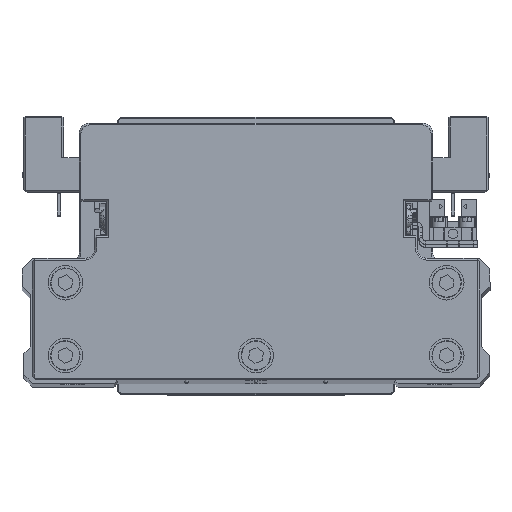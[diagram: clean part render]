
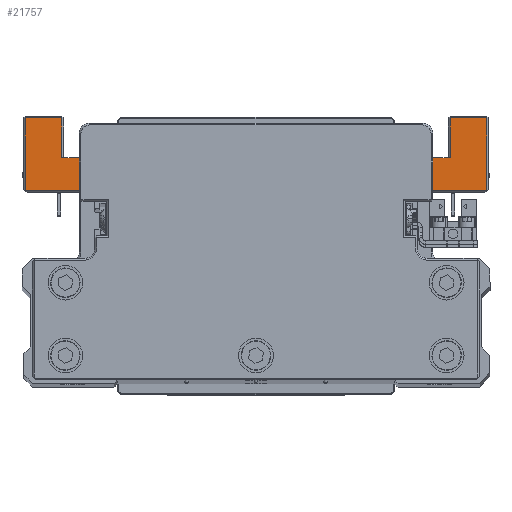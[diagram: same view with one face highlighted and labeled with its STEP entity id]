
A CAD part, top view. The second image highlights one B-rep face of the part: STEP entity #21757.
In plain terms, the highlighted planar face has unit normal (0, 0, 1) as drawn and (0, -1, 0) by its records, which use the part's own axes.
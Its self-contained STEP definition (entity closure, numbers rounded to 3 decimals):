
#38 = VECTOR ( 'NONE', #39865, 1000. ) ;
#232 = CARTESIAN_POINT ( 'NONE',  ( 40.066, -45., -41.5 ) ) ;
#946 = DIRECTION ( 'NONE',  ( -1., 0., 0. ) ) ;
#1386 = VERTEX_POINT ( 'NONE', #9622 ) ;
#1780 = EDGE_CURVE ( 'NONE', #37470, #39739, #15236, .T. ) ;
#1956 = EDGE_CURVE ( 'NONE', #39739, #14226, #10176, .T. ) ;
#2041 = LINE ( 'NONE', #14368, #35188 ) ;
#2049 = LINE ( 'NONE', #14380, #17871 ) ;
#2439 = CARTESIAN_POINT ( 'NONE',  ( 40.066, -45., -43. ) ) ;
#2523 = DIRECTION ( 'NONE',  ( 0., 0., 1. ) ) ;
#3323 = VERTEX_POINT ( 'NONE', #9355 ) ;
#3810 = CARTESIAN_POINT ( 'NONE',  ( 46., -45., -52.5 ) ) ;
#3876 = ORIENTED_EDGE ( 'NONE', *, *, #20486, .T. ) ;
#5129 = LINE ( 'NONE', #17443, #29967 ) ;
#5244 = ORIENTED_EDGE ( 'NONE', *, *, #15177, .F. ) ;
#5285 = ORIENTED_EDGE ( 'NONE', *, *, #1956, .T. ) ;
#5415 = CIRCLE ( 'NONE', #27950, 1.5 ) ;
#5598 = CARTESIAN_POINT ( 'NONE',  ( -39.868, -45., -42.987 ) ) ;
#6150 = VERTEX_POINT ( 'NONE', #32179 ) ;
#6211 = CARTESIAN_POINT ( 'NONE',  ( 66.5, -45., -43. ) ) ;
#6313 = ORIENTED_EDGE ( 'NONE', *, *, #14739, .T. ) ;
#6719 = LINE ( 'NONE', #19033, #20850 ) ;
#6961 = VECTOR ( 'NONE', #14763, 1000. ) ;
#6975 = VECTOR ( 'NONE', #2523, 1000. ) ;
#7526 = DIRECTION ( 'NONE',  ( 1., 0., 0. ) ) ;
#7563 = VERTEX_POINT ( 'NONE', #21644 ) ;
#7602 = EDGE_CURVE ( 'NONE', #13539, #3323, #30424, .T. ) ;
#8765 = LINE ( 'NONE', #21071, #15377 ) ;
#9108 = ORIENTED_EDGE ( 'NONE', *, *, #16505, .T. ) ;
#9355 = CARTESIAN_POINT ( 'NONE',  ( 39.868, -45., -42.987 ) ) ;
#9622 = CARTESIAN_POINT ( 'NONE',  ( 46., -45., -52.5 ) ) ;
#9685 = DIRECTION ( 'NONE',  ( 0., -1., 0. ) ) ;
#9910 = CARTESIAN_POINT ( 'NONE',  ( 40.066, -45., -43. ) ) ;
#9982 = CARTESIAN_POINT ( 'NONE',  ( 67., -45., -64. ) ) ;
#10176 = LINE ( 'NONE', #22481, #34220 ) ;
#10508 = VERTEX_POINT ( 'NONE', #25478 ) ;
#10859 = CARTESIAN_POINT ( 'NONE',  ( -56., -45., -52.5 ) ) ;
#11512 = EDGE_LOOP ( 'NONE', ( #27653, #5285, #22782, #3876, #6313, #16341, #32161, #22154, #18797, #21471, #13498, #5244, #13008, #34532, #9108, #14278, #38404, #38354 ) ) ;
#11724 = DIRECTION ( 'NONE',  ( -0.991, 0., 0.132 ) ) ;
#11751 = CARTESIAN_POINT ( 'NONE',  ( -46., -45., -52.5 ) ) ;
#11914 = DIRECTION ( 'NONE',  ( 0., 1., 0. ) ) ;
#12033 = VERTEX_POINT ( 'NONE', #30064 ) ;
#12554 = DIRECTION ( 'NONE',  ( 0., 1., 0. ) ) ;
#12711 = FACE_OUTER_BOUND ( 'NONE', #11512, .T. ) ;
#13008 = ORIENTED_EDGE ( 'NONE', *, *, #26349, .T. ) ;
#13044 = AXIS2_PLACEMENT_3D ( 'NONE', #232, #12554, #24858 ) ;
#13338 = CARTESIAN_POINT ( 'NONE',  ( -66.5, -45., -43. ) ) ;
#13498 = ORIENTED_EDGE ( 'NONE', *, *, #18636, .F. ) ;
#13539 = VERTEX_POINT ( 'NONE', #9910 ) ;
#13822 = VECTOR ( 'NONE', #38661, 1000. ) ;
#14024 = CARTESIAN_POINT ( 'NONE',  ( 46., -45., -54. ) ) ;
#14037 = LINE ( 'NONE', #26352, #13822 ) ;
#14226 = VERTEX_POINT ( 'NONE', #5598 ) ;
#14278 = ORIENTED_EDGE ( 'NONE', *, *, #34298, .T. ) ;
#14368 = CARTESIAN_POINT ( 'NONE',  ( 55.5, -45., -52.5 ) ) ;
#14375 = VERTEX_POINT ( 'NONE', #34027 ) ;
#14380 = CARTESIAN_POINT ( 'NONE',  ( 66.5, -45., -43.5 ) ) ;
#14739 = EDGE_CURVE ( 'NONE', #29407, #14375, #5129, .T. ) ;
#14763 = DIRECTION ( 'NONE',  ( -1., 0., 0. ) ) ;
#15055 = CARTESIAN_POINT ( 'NONE',  ( -46., -45., -52.5 ) ) ;
#15177 = EDGE_CURVE ( 'NONE', #15844, #1386, #2041, .T. ) ;
#15236 = LINE ( 'NONE', #27538, #38 ) ;
#15377 = VECTOR ( 'NONE', #33365, 1000. ) ;
#15703 = AXIS2_PLACEMENT_3D ( 'NONE', #37329, #9685, #22000 ) ;
#15844 = VERTEX_POINT ( 'NONE', #37666 ) ;
#15997 = VERTEX_POINT ( 'NONE', #14024 ) ;
#16129 = DIRECTION ( 'NONE',  ( 0., 0., -1. ) ) ;
#16295 = LINE ( 'NONE', #28592, #31052 ) ;
#16341 = ORIENTED_EDGE ( 'NONE', *, *, #21296, .T. ) ;
#16505 = EDGE_CURVE ( 'NONE', #7563, #36729, #2049, .T. ) ;
#17272 = VECTOR ( 'NONE', #24075, 1000. ) ;
#17443 = CARTESIAN_POINT ( 'NONE',  ( -66.5, -45., -64.5 ) ) ;
#17871 = VECTOR ( 'NONE', #26698, 1000. ) ;
#17890 = LINE ( 'NONE', #30160, #6975 ) ;
#18477 = EDGE_CURVE ( 'NONE', #14226, #10508, #5415, .T. ) ;
#18636 = EDGE_CURVE ( 'NONE', #1386, #15997, #31443, .T. ) ;
#18797 = ORIENTED_EDGE ( 'NONE', *, *, #35771, .F. ) ;
#19033 = CARTESIAN_POINT ( 'NONE',  ( -55.5, -45., -64. ) ) ;
#19564 = VECTOR ( 'NONE', #22285, 1000. ) ;
#20486 = EDGE_CURVE ( 'NONE', #10508, #29407, #16295, .T. ) ;
#20738 = VERTEX_POINT ( 'NONE', #15055 ) ;
#20850 = VECTOR ( 'NONE', #31305, 1000. ) ;
#21071 = CARTESIAN_POINT ( 'NONE',  ( -55.5, -45., -52.5 ) ) ;
#21296 = EDGE_CURVE ( 'NONE', #14375, #24620, #6719, .T. ) ;
#21471 = ORIENTED_EDGE ( 'NONE', *, *, #34113, .T. ) ;
#21499 = VECTOR ( 'NONE', #11724, 1000. ) ;
#21601 = EDGE_CURVE ( 'NONE', #3323, #37470, #27061, .T. ) ;
#21644 = CARTESIAN_POINT ( 'NONE',  ( 66.5, -45., -64. ) ) ;
#21757 = ADVANCED_FACE ( 'NONE', ( #12711 ), #25020, .T. ) ;
#22000 = DIRECTION ( 'NONE',  ( 0., 0., -1. ) ) ;
#22154 = ORIENTED_EDGE ( 'NONE', *, *, #32610, .F. ) ;
#22184 = VECTOR ( 'NONE', #16129, 1000. ) ;
#22285 = DIRECTION ( 'NONE',  ( 1., 0., 0. ) ) ;
#22481 = CARTESIAN_POINT ( 'NONE',  ( -39.868, -45., -42.987 ) ) ;
#22782 = ORIENTED_EDGE ( 'NONE', *, *, #18477, .T. ) ;
#22785 = CARTESIAN_POINT ( 'NONE',  ( -40.066, -45., -41.5 ) ) ;
#22875 = LINE ( 'NONE', #35182, #24986 ) ;
#23244 = VERTEX_POINT ( 'NONE', #10859 ) ;
#24075 = DIRECTION ( 'NONE',  ( 0., 0., 1. ) ) ;
#24228 = DIRECTION ( 'NONE',  ( 0., 0., -1. ) ) ;
#24620 = VERTEX_POINT ( 'NONE', #32827 ) ;
#24858 = DIRECTION ( 'NONE',  ( 0., 0., -1. ) ) ;
#24986 = VECTOR ( 'NONE', #7526, 1000. ) ;
#25020 = PLANE ( 'NONE',  #15703 ) ;
#25296 = EDGE_CURVE ( 'NONE', #6150, #7563, #37618, .T. ) ;
#25478 = CARTESIAN_POINT ( 'NONE',  ( -40.066, -45., -43. ) ) ;
#26349 = EDGE_CURVE ( 'NONE', #15844, #6150, #14037, .T. ) ;
#26352 = CARTESIAN_POINT ( 'NONE',  ( 56., -45., -64.5 ) ) ;
#26689 = DIRECTION ( 'NONE',  ( -1., 0., 0. ) ) ;
#26698 = DIRECTION ( 'NONE',  ( 0., 0., 1. ) ) ;
#27061 = LINE ( 'NONE', #39378, #21499 ) ;
#27538 = CARTESIAN_POINT ( 'NONE',  ( -77.786, -45., -42.5 ) ) ;
#27653 = ORIENTED_EDGE ( 'NONE', *, *, #1780, .T. ) ;
#27950 = AXIS2_PLACEMENT_3D ( 'NONE', #22785, #11914, #24228 ) ;
#28592 = CARTESIAN_POINT ( 'NONE',  ( -66., -45., -43. ) ) ;
#28879 = CARTESIAN_POINT ( 'NONE',  ( -36.217, -45., -42.5 ) ) ;
#29407 = VERTEX_POINT ( 'NONE', #13338 ) ;
#29722 = DIRECTION ( 'NONE',  ( 0., 0., -1. ) ) ;
#29967 = VECTOR ( 'NONE', #29722, 1000. ) ;
#30064 = CARTESIAN_POINT ( 'NONE',  ( -46., -45., -54. ) ) ;
#30071 = LINE ( 'NONE', #2439, #6961 ) ;
#30160 = CARTESIAN_POINT ( 'NONE',  ( -56., -45., -52.5 ) ) ;
#30424 = CIRCLE ( 'NONE', #13044, 1.5 ) ;
#31052 = VECTOR ( 'NONE', #946, 1000. ) ;
#31305 = DIRECTION ( 'NONE',  ( 1., 0., 0. ) ) ;
#31443 = LINE ( 'NONE', #3810, #22184 ) ;
#32111 = EDGE_CURVE ( 'NONE', #24620, #23244, #17890, .T. ) ;
#32161 = ORIENTED_EDGE ( 'NONE', *, *, #32111, .T. ) ;
#32179 = CARTESIAN_POINT ( 'NONE',  ( 56., -45., -64. ) ) ;
#32610 = EDGE_CURVE ( 'NONE', #20738, #23244, #8765, .T. ) ;
#32827 = CARTESIAN_POINT ( 'NONE',  ( -56., -45., -64. ) ) ;
#33365 = DIRECTION ( 'NONE',  ( -1., 0., 0. ) ) ;
#34027 = CARTESIAN_POINT ( 'NONE',  ( -66.5, -45., -64. ) ) ;
#34113 = EDGE_CURVE ( 'NONE', #12033, #15997, #22875, .T. ) ;
#34220 = VECTOR ( 'NONE', #34790, 1000. ) ;
#34298 = EDGE_CURVE ( 'NONE', #36729, #13539, #30071, .T. ) ;
#34532 = ORIENTED_EDGE ( 'NONE', *, *, #25296, .T. ) ;
#34790 = DIRECTION ( 'NONE',  ( -0.991, 0., -0.132 ) ) ;
#35182 = CARTESIAN_POINT ( 'NONE',  ( 46., -45., -54. ) ) ;
#35188 = VECTOR ( 'NONE', #26689, 1000. ) ;
#35771 = EDGE_CURVE ( 'NONE', #12033, #20738, #39410, .T. ) ;
#36729 = VERTEX_POINT ( 'NONE', #6211 ) ;
#37329 = CARTESIAN_POINT ( 'NONE',  ( 0., -45., 0. ) ) ;
#37470 = VERTEX_POINT ( 'NONE', #38617 ) ;
#37618 = LINE ( 'NONE', #9982, #19564 ) ;
#37666 = CARTESIAN_POINT ( 'NONE',  ( 56., -45., -52.5 ) ) ;
#38354 = ORIENTED_EDGE ( 'NONE', *, *, #21601, .T. ) ;
#38404 = ORIENTED_EDGE ( 'NONE', *, *, #7602, .T. ) ;
#38617 = CARTESIAN_POINT ( 'NONE',  ( 36.217, -45., -42.5 ) ) ;
#38661 = DIRECTION ( 'NONE',  ( 0., 0., -1. ) ) ;
#39378 = CARTESIAN_POINT ( 'NONE',  ( 25.802, -45., -41.111 ) ) ;
#39410 = LINE ( 'NONE', #11751, #17272 ) ;
#39739 = VERTEX_POINT ( 'NONE', #28879 ) ;
#39865 = DIRECTION ( 'NONE',  ( -1., 0., 0. ) ) ;
